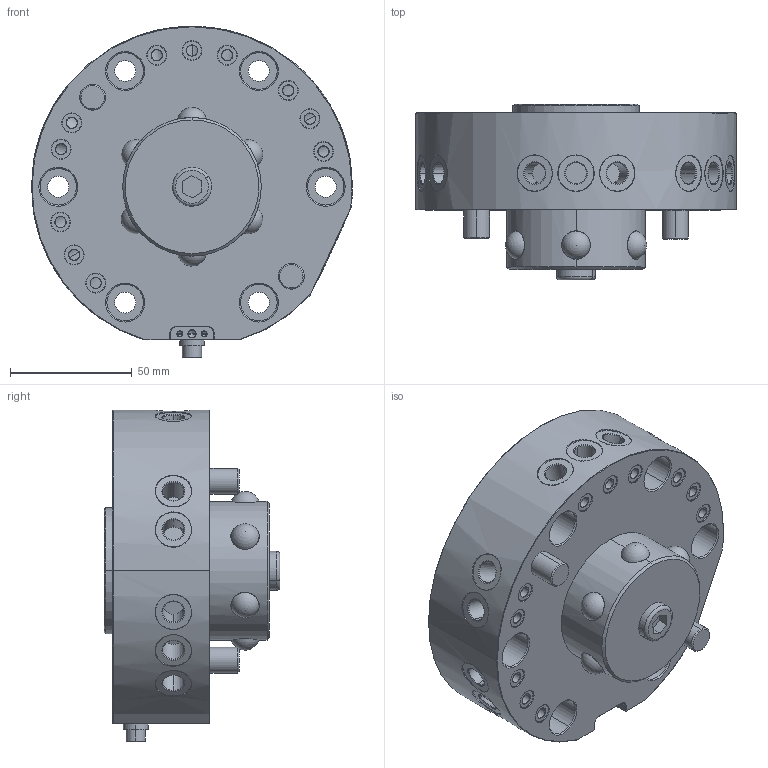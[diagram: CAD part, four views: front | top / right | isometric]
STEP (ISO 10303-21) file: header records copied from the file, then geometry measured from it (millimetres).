
FILE_DESCRIPTION (( 'STEP AP203' ), '1' );
FILE_NAME ('TSKP-M80-00主盘本体.STEP', '2021-08-12T09:35:48', ( '' ), ( '' ), 'SwSTEP 2.0', 'SolidWorks 2018', '' );
FILE_SCHEMA (( 'CONFIG_CONTROL_DESIGN' ));
Length unit declared in the file: millimetre
Products named in the file (1): TSKP-M80-00翋攫掛极
Bounding box: 132 x 72.3 x 136.3 mm (x, y, z)
Volume: 563840.5 mm3; surface area: 80460.2 mm2
Topology: 3 solids, 9 shells, 778 faces, 1794 edges, 1092 vertices
Faces by surface type: cylinder 265, plane 225, cone 168, torus 114, sphere 6
Entity records: 24809 total; most frequent: CARTESIAN_POINT 6799, DIRECTION 4057, ORIENTED_EDGE 3500, EDGE_CURVE 1750, AXIS2_PLACEMENT_3D 1677, VERTEX_POINT 1082, EDGE_LOOP 924, CIRCLE 898
